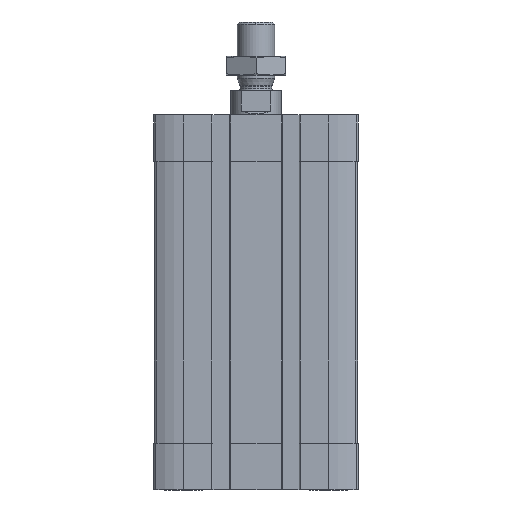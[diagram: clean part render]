
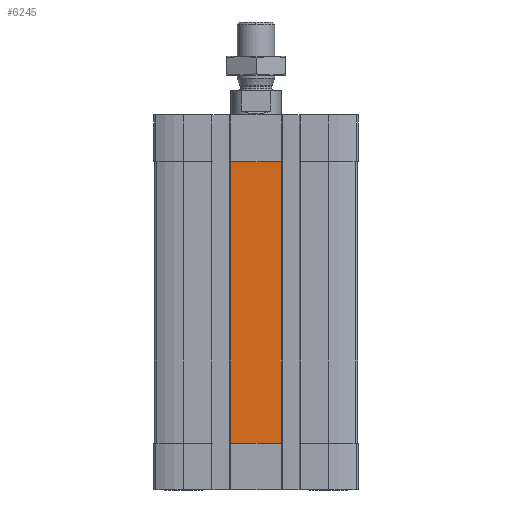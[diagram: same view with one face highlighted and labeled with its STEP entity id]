
A CAD part, front view. The second image highlights one B-rep face of the part: STEP entity #6245.
In plain terms, the highlighted planar face has unit normal (0, -1, 0).
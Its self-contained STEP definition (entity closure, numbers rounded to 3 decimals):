
#452 = VERTEX_POINT ( 'NONE', #6379 ) ;
#984 = DIRECTION ( 'NONE',  ( -1., 0., 0. ) ) ;
#1285 = EDGE_LOOP ( 'NONE', ( #7705, #10204, #12128, #9167 ) ) ;
#1819 = FACE_OUTER_BOUND ( 'NONE', #1285, .T. ) ;
#2220 = VERTEX_POINT ( 'NONE', #10818 ) ;
#2637 = VECTOR ( 'NONE', #984, 1000. ) ;
#2960 = CARTESIAN_POINT ( 'NONE',  ( -8., -32.5, -105. ) ) ;
#4298 = AXIS2_PLACEMENT_3D ( 'NONE', #12762, #13024, #13088 ) ;
#5271 = CARTESIAN_POINT ( 'NONE',  ( 8., -32.5, -15. ) ) ;
#5463 = LINE ( 'NONE', #10461, #12463 ) ;
#5973 = CARTESIAN_POINT ( 'NONE',  ( 8., -32.5, -105. ) ) ;
#6190 = EDGE_CURVE ( 'NONE', #8601, #12177, #5463, .T. ) ;
#6232 = EDGE_CURVE ( 'NONE', #2220, #452, #12066, .T. ) ;
#6245 = ADVANCED_FACE ( 'NONE', ( #1819 ), #11995, .T. ) ;
#6379 = CARTESIAN_POINT ( 'NONE',  ( -8., -32.5, -105. ) ) ;
#7705 = ORIENTED_EDGE ( 'NONE', *, *, #9916, .T. ) ;
#8601 = VERTEX_POINT ( 'NONE', #5973 ) ;
#9167 = ORIENTED_EDGE ( 'NONE', *, *, #6232, .T. ) ;
#9916 = EDGE_CURVE ( 'NONE', #452, #8601, #11409, .T. ) ;
#10204 = ORIENTED_EDGE ( 'NONE', *, *, #6190, .T. ) ;
#10461 = CARTESIAN_POINT ( 'NONE',  ( 8., -32.5, -105. ) ) ;
#10572 = DIRECTION ( 'NONE',  ( 0., 0., 1. ) ) ;
#10818 = CARTESIAN_POINT ( 'NONE',  ( -8., -32.5, -15. ) ) ;
#10943 = EDGE_CURVE ( 'NONE', #12177, #2220, #14616, .T. ) ;
#11173 = DIRECTION ( 'NONE',  ( 0., 0., -1. ) ) ;
#11409 = LINE ( 'NONE', #2960, #11791 ) ;
#11603 = CARTESIAN_POINT ( 'NONE',  ( -8., -32.5, -105. ) ) ;
#11791 = VECTOR ( 'NONE', #12046, 1000. ) ;
#11995 = PLANE ( 'NONE',  #4298 ) ;
#12046 = DIRECTION ( 'NONE',  ( 1., 0., 0. ) ) ;
#12066 = LINE ( 'NONE', #11603, #14905 ) ;
#12128 = ORIENTED_EDGE ( 'NONE', *, *, #10943, .T. ) ;
#12177 = VERTEX_POINT ( 'NONE', #5271 ) ;
#12463 = VECTOR ( 'NONE', #10572, 1000. ) ;
#12762 = CARTESIAN_POINT ( 'NONE',  ( -8., -32.5, -105. ) ) ;
#13024 = DIRECTION ( 'NONE',  ( 0., -1., 0. ) ) ;
#13088 = DIRECTION ( 'NONE',  ( 0., 0., -1. ) ) ;
#14616 = LINE ( 'NONE', #15957, #2637 ) ;
#14905 = VECTOR ( 'NONE', #11173, 1000. ) ;
#15957 = CARTESIAN_POINT ( 'NONE',  ( 0., -32.5, -15. ) ) ;
